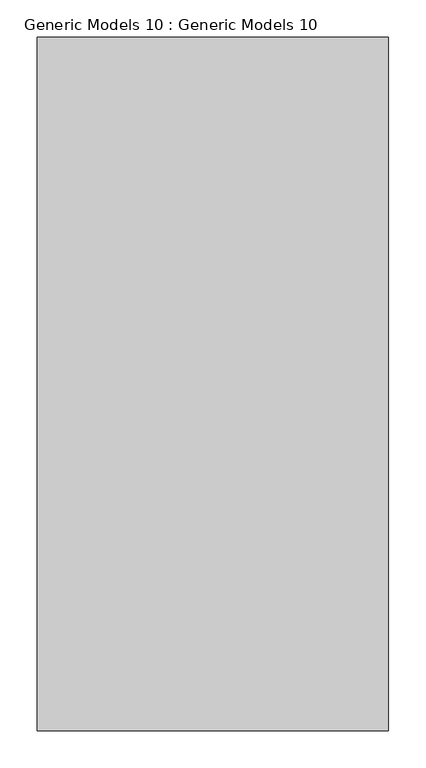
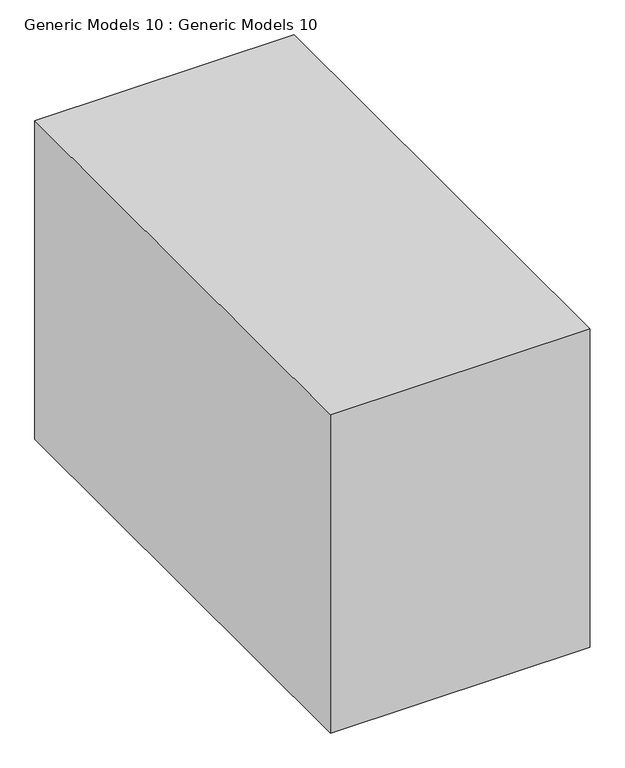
"""IFC4 building model written with IfcOpenShell, lengths in millimetres: proxy geometry, Generic Models 10 : Generic Models 10."""

import ifcopenshell
import ifcopenshell.guid

model = None  # the IFC model being written
_history = None  # IfcOwnerHistory: only IFC2X3 demands one
_inside = {}  # id of a spatial element -> (the spatial element, [elements in it])
_under = {}  # id of a project, library or spatial element -> (it, [spatial elements below it])
_declared = {}  # id of a project -> (the project, [libraries it declares])
_typed = {}  # id of a type object -> (the type object, [elements of that type])
_made_of = {}  # id of a material, layer set ... -> (it, [elements and type objects made of it])


def new_model(schema):
    """Start an empty IFC model of exactly this schema.

    Asked for "IFC4X3", IfcOpenShell would pick the latest addendum, in which some entities
    have other attributes; the version numbers below select the first issue.
    IFC2X3 requires an IfcOwnerHistory on every rooted entity: one is made here for all.
    """
    global model, _history
    if schema == "IFC4X3":
        model = ifcopenshell.file(schema_version=(4, 3, 0, 0))
    else:
        model = ifcopenshell.file(schema=schema)
    _inside.clear()
    _under.clear()
    _declared.clear()
    _typed.clear()
    _made_of.clear()
    _history = None
    if model.schema == "IFC2X3":
        org = make("IfcOrganization", Name="unknown")
        user = make(
            "IfcPersonAndOrganization",
            ThePerson=make("IfcPerson", FamilyName="unknown"),
            TheOrganization=org,
        )
        app = make(
            "IfcApplication",
            ApplicationDeveloper=org,
            Version="unknown",
            ApplicationFullName="unknown",
            ApplicationIdentifier="unknown",
        )
        _history = make(
            "IfcOwnerHistory",
            OwningUser=user,
            OwningApplication=app,
            ChangeAction="ADDED",
            CreationDate=0,
        )
    return model


def make(cls, **values):
    """One entity of the class cls with the attributes given. An attribute that is None is left unset."""
    return model.create_entity(
        cls, **{name: value for name, value in values.items() if value is not None}
    )


def rooted(cls, **values):
    """An entity with a GlobalId (a new one), such as an element, a storey or a relation."""
    return make(cls, GlobalId=ifcopenshell.guid.new(), OwnerHistory=_history, **values)


def si_unit(unit_type, name, prefix=None):
    """IfcSIUnit, for example si_unit("LENGTHUNIT", "METRE", prefix="MILLI")."""
    return make("IfcSIUnit", UnitType=unit_type, Prefix=prefix, Name=name)


def assignment(units):
    """IfcUnitAssignment: the units of a project."""
    return None if units is None else make("IfcUnitAssignment", Units=units)


def point(xyz):
    """IfcCartesianPoint."""
    return None if xyz is None else make("IfcCartesianPoint", Coordinates=xyz)


def direction(xyz):
    """IfcDirection."""
    return None if xyz is None else make("IfcDirection", DirectionRatios=xyz)


def frame(location, z_axis=None, x_axis=None):
    """IfcAxis2Placement3D, a coordinate frame: its origin and axes. An axis left out is left unset."""
    return make(
        "IfcAxis2Placement3D",
        Location=point(location),
        Axis=direction(z_axis),
        RefDirection=direction(x_axis),
    )


def origin():
    """The frame at (0, 0, 0) with its axes left unset."""
    return frame((0.0, 0.0, 0.0))


def place(relative_to, where):
    """IfcLocalPlacement: puts the frame where relative to a parent placement (None: the world)."""
    return make(
        "IfcLocalPlacement", PlacementRelTo=relative_to, RelativePlacement=where
    )


def context(
    kind, dimensions, precision=None, world=None, true_north=None, identifier=None
):
    """IfcGeometricRepresentationContext, for example the 3D "Model" context."""
    return make(
        "IfcGeometricRepresentationContext",
        ContextIdentifier=identifier,
        ContextType=kind,
        CoordinateSpaceDimension=dimensions,
        Precision=precision,
        WorldCoordinateSystem=world,
        TrueNorth=true_north,
    )


def project(units=None, contexts=None):
    """IfcProject with its units and contexts."""
    return rooted(
        "IfcProject",
        Name="project",
        RepresentationContexts=contexts,
        UnitsInContext=assignment(units),
    )


def spatial(cls, under=None, at=None, **own):
    """A site, building, storey or space (cls), placed at a placement, below another one or the project."""
    s = rooted(cls, ObjectPlacement=at, **own)
    if under is not None:
        _under.setdefault(under.id(), (under, []))[1].append(s)
    return s


def polyline(points):
    """IfcPolyline through the points."""
    return make("IfcPolyline", Points=[point(p) for p in points])


def outline(outer, holes=None, kind="AREA"):
    """IfcArbitraryClosedProfileDef: a profile drawn as a closed curve; with holes, ...WithVoids."""
    if holes is None:
        return make("IfcArbitraryClosedProfileDef", ProfileType=kind, OuterCurve=outer)
    return make(
        "IfcArbitraryProfileDefWithVoids",
        ProfileType=kind,
        OuterCurve=outer,
        InnerCurves=holes,
    )


def extrude(swept, where, along, depth):
    """IfcExtrudedAreaSolid: the profile swept, set in the frame where, extruded along a direction by depth."""
    return make(
        "IfcExtrudedAreaSolid",
        SweptArea=swept,
        Position=where,
        ExtrudedDirection=direction(along),
        Depth=depth,
    )


def shape(context_of_items, identifier, shape_type, items):
    """IfcShapeRepresentation: the items that make up one representation, for example the "Body"."""
    return make(
        "IfcShapeRepresentation",
        ContextOfItems=context_of_items,
        RepresentationIdentifier=identifier,
        RepresentationType=shape_type,
        Items=items,
    )


def source(mapping_origin, context_of_items, identifier, shape_type, items):
    """IfcRepresentationMap: a shape defined once, which mapped items show again and again."""
    return make(
        "IfcRepresentationMap",
        MappingOrigin=mapping_origin,
        MappedRepresentation=shape(context_of_items, identifier, shape_type, items),
    )


def transform(
    local_origin,
    x_axis=None,
    y_axis=None,
    z_axis=None,
    scale=None,
    scale2=None,
    scale3=None,
    uniform=True,
):
    """IfcCartesianTransformationOperator3D, or its non-uniform kind. x_axis, y_axis, z_axis: its Axis1, 2, 3."""
    if uniform:
        return make(
            "IfcCartesianTransformationOperator3D",
            Axis1=direction(x_axis),
            Axis2=direction(y_axis),
            LocalOrigin=point(local_origin),
            Scale=scale,
            Axis3=direction(z_axis),
        )
    return make(
        "IfcCartesianTransformationOperator3DnonUniform",
        Axis1=direction(x_axis),
        Axis2=direction(y_axis),
        LocalOrigin=point(local_origin),
        Scale=scale,
        Axis3=direction(z_axis),
        Scale2=scale2,
        Scale3=scale3,
    )


def mapped(mapping_source, mapping_target):
    """IfcMappedItem: shows the shape of a source again, moved by a transform."""
    return make(
        "IfcMappedItem", MappingSource=mapping_source, MappingTarget=mapping_target
    )


def made_of(thing, what):
    """Note that an element or type object is made of a material, layer set ...; save() writes the relation."""
    if what is not None:
        _made_of.setdefault(what.id(), (what, []))[1].append(thing)
    return thing


def element(
    cls,
    number,
    at=None,
    inside=None,
    cuts=None,
    type_object=None,
    material=None,
    context=None,
    identifier="Body",
    shape_type=None,
    held_by="IfcProductDefinitionShape",
    body=None,
    shapes=None,
    **own,
):
    """One element of the class cls, such as IfcWall. Its Tag is "e" and its number.

    at: its placement. inside: the storey or other place that contains it. cuts: it is an
    opening in that element (IfcRelVoidsElement). A single representation is given by context,
    identifier, shape_type and body (its items); several are given by shapes. held_by: the class
    of the entity that holds the representations. save() writes the other relations.
    """
    e = rooted(cls, Tag="e%d" % number, ObjectPlacement=at, **own)
    if body is not None:
        shapes = [shape(context, identifier, shape_type, body)]
    if shapes is not None:
        e.Representation = make(held_by, Representations=shapes)
    if inside is not None:
        _inside.setdefault(inside.id(), (inside, []))[1].append(e)
    if cuts is not None:
        rooted(
            "IfcRelVoidsElement", RelatingBuildingElement=cuts, RelatedOpeningElement=e
        )
    if type_object is not None:
        _typed.setdefault(type_object.id(), (type_object, []))[1].append(e)
    return made_of(e, material)


def aggregate(whole, parts):
    """IfcRelAggregates: a whole, such as a stair, and the parts it consists of."""
    return rooted("IfcRelAggregates", RelatingObject=whole, RelatedObjects=parts)


def save(model, path):
    """Write the relations noted so far, then the file.

    IfcRelAggregates (storeys below a building ...), IfcRelContainedInSpatialStructure (elements
    in a storey), IfcRelDefinesByType, IfcRelAssociatesMaterial and IfcRelDeclares: one each for
    every whole, place, type object, material and project.
    """
    for whole, parts in _under.values():
        aggregate(whole, parts)
    for where, things in _inside.values():
        rooted(
            "IfcRelContainedInSpatialStructure",
            RelatedElements=things,
            RelatingStructure=where,
        )
    for kind, things in _typed.values():
        rooted("IfcRelDefinesByType", RelatedObjects=things, RelatingType=kind)
    for what, things in _made_of.values():
        rooted("IfcRelAssociatesMaterial", RelatedObjects=things, RelatingMaterial=what)
    for by, libraries in _declared.values():
        rooted("IfcRelDeclares", RelatingContext=by, RelatedDefinitions=libraries)
    model.write(path)


def generic_models_10_generic_models_10_4ac16e84(model_context):
    return source(origin(), model_context, "Body", "SweptSolid", [
        extrude(outline(polyline([(-190.5, 11137.9), (279.4, 11137.9), (279.4, 10210.8), (-190.5, 10210.8), (-190.5, 11137.9)])), frame((0.0, 0.0, 3348.0), z_axis=(0.0, 0.0, 1.0), x_axis=(1.0, 0.0, 0.0)), (0.0, 0.0, 1.0), 609.6),
    ])


if __name__ == "__main__":
    model = new_model("IFC4")
    model_context = context("Model", 3, world=origin())
    ifc_project = project(units=[si_unit("LENGTHUNIT", "METRE", prefix="MILLI")], contexts=[model_context])
    site = spatial("IfcSite", under=ifc_project)
    building = spatial("IfcBuilding", under=site)
    placement = place(None, origin())
    generic_models_10_generic_models_10_shape = generic_models_10_generic_models_10_4ac16e84(model_context)
    element("IfcBuildingElementProxy", 1, Name="Generic Models 10 : Generic Models 10", ObjectType="Generic Models 10 : Generic Models 10", at=placement, inside=building, context=model_context, shape_type="MappedRepresentation", body=[
        mapped(generic_models_10_generic_models_10_shape, transform((0.0, 0.0, 0.0), x_axis=(1.0, 0.0, 0.0), y_axis=(0.0, 1.0, 0.0), z_axis=(0.0, 0.0, 1.0))),
    ])
    save(model, "model.ifc")
